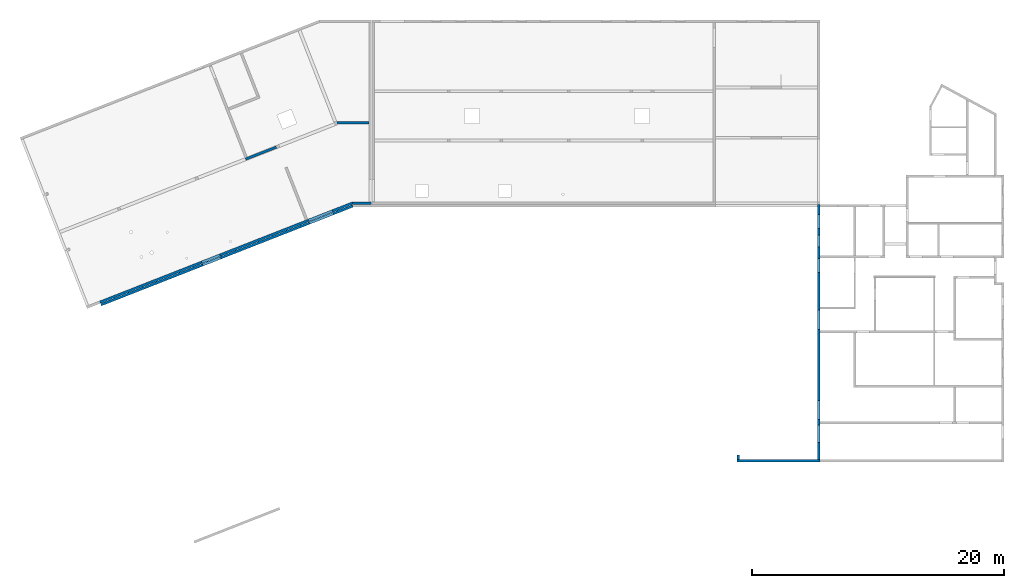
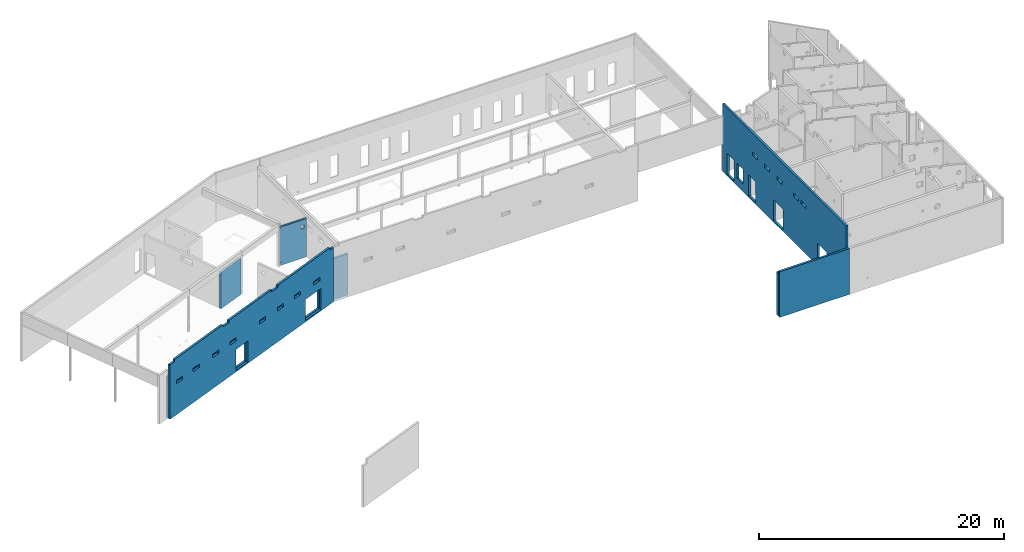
# One storey, part 3 of 13: 8 walls, 37 openings.
"""IFC2X3 building model written with IfcOpenShell, lengths in metres."""

from ifc_helpers import new_model, entity, si_unit, converted_unit, direction, frame, origin, origin_with_axes, place, context, subcontext, project, spatial, polyline, outline, extrude, clip, bounded_halfspace, material, layer, layer_set, layer_usage, element, save


model = new_model("IFC2X3")

# Units and contexts
model_context = context("Model", 3, precision=1e-05, world=origin(), true_north=direction((-0.407059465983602, -0.913401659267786)))
body_context = subcontext(model_context, "Body", "Model", "MODEL_VIEW")
ifc_project = project(units=[si_unit("LENGTHUNIT", "METRE"), si_unit("AREAUNIT", "SQUARE_METRE"), si_unit("VOLUMEUNIT", "CUBIC_METRE"), si_unit("MASSUNIT", "GRAM", prefix="KILO"), converted_unit("PLANEANGLEUNIT", "DEGREE", entity("IfcPlaneAngleMeasure", 0.0174532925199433), si_unit("PLANEANGLEUNIT", "RADIAN"), dimensions=[0, 0, 0, 0, 0, 0, 0])], contexts=[model_context])

# Site, buildings, storey
site_placement = place(None, origin())
site = spatial("IfcSite", under=ifc_project, at=site_placement, Name="Site", CompositionType="ELEMENT")
building_1_placement = place(site_placement, origin())
building_1 = spatial("IfcBuilding", under=site, at=building_1_placement, Name="Site", CompositionType="COMPLEX")
building_2_placement = place(building_1_placement, origin())
building_2 = spatial("IfcBuilding", under=building_1, at=building_2_placement, Name="Bâtiments", CompositionType="ELEMENT")
storey_placement = place(building_2_placement, frame((0.0, 0.0, -0.14)))
storey = spatial("IfcBuildingStorey", under=building_2, at=storey_placement, Name="RDC", CompositionType="ELEMENT", Elevation=-0.14)

# Wall
ifc_material_1 = material(Name="Béton")
ifc_layer_1 = layer(ifc_material_1, 0.200000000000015)
ifc_layer_set_1 = layer_set([ifc_layer_1])
ifc_layer_usage_1 = layer_usage(ifc_layer_set_1, "AXIS2", "POSITIVE", 0.0)
wall_1_placement = place(storey_placement, frame((20.2617836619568, -0.578992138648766, 0.0), z_axis=(0.0, 0.0, 1.0), x_axis=(-0.930910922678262, -0.365246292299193, 0.0)))
element("IfcWallStandardCase", 1, at=wall_1_placement, inside=storey, material=ifc_layer_usage_1, context=body_context, shape_type="SweptSolid", body=[
    extrude(outline(polyline([(-2.69440214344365, -0.173319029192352), (-0.0680023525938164, -0.173319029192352), (-0.0680023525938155, 0.0266809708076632), (-2.6945069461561, 0.0266809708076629), (-2.69440214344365, -0.173319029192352)])), frame((2.69440214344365, 0.173319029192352, 0.0), z_axis=(0.0, 0.0, 1.0), x_axis=(1.0, 0.0, 0.0)), (0.0, 0.0, 1.0), 3.64),
])

# Wall, openings
ifc_material_2 = material(Name="Béton")
ifc_layer_2 = layer(ifc_material_2, 0.200000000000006)
ifc_layer_set_2 = layer_set([ifc_layer_2])
ifc_layer_usage_2 = layer_usage(ifc_layer_set_2, "AXIS2", "POSITIVE", -0.100000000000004)
wall_2_placement = place(storey_placement, frame((25.1348412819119, 1.17469343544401, 0.02), z_axis=(0.0, 0.0, 1.0), x_axis=(1.0, 4.6824196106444e-10, 0.0)))
wall_2 = element("IfcWallStandardCase", 2, at=wall_2_placement, inside=storey, material=ifc_layer_usage_2, context=body_context, shape_type="Clipping", body=[
    clip(extrude(outline(polyline([(0.0364060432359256, -1.70468370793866e-11), (2.5641935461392, -1.70468370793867e-11), (2.5641935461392, 0.199999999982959), (9.36483922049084e-11, 0.199999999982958), (0.0364060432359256, -1.70468370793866e-11)])), frame((-0.0364060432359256, 1.70468370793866e-11, 0.0), z_axis=(0.0, 0.0, 1.0), x_axis=(1.0, 0.0, 0.0)), (0.0, 0.0, 1.0), 3.82), bounded_halfspace(frame((0.00156299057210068, 0.0552426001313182, 3.62), z_axis=(0.0, 0.0, -1.0), x_axis=(1.0, 2.57717025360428e-15, 0.0)), True, origin_with_axes(), polyline([(0.0, 0.0), (0.0348564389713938, 8.98309776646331e-17), (-0.0301674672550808, 0.165727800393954), (0.0, 0.0)]))),
])
opening_1_placement = place(wall_2_placement, frame((2.34868595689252, 0.200000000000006, 2.9), z_axis=(-4.68241978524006e-10, -1.0, 0.0), x_axis=(0.0, 0.0, 1.0)))
element("IfcOpeningElement", 3, at=opening_1_placement, cuts=wall_2, Name="CVC-030", ObjectType="Opening", context=body_context, shape_type="SweptSolid", body=[
    extrude(outline(polyline([(0.199999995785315, 0.4), (0.220905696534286, 0.398904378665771), (0.241582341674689, 0.395629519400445), (0.261803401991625, 0.390211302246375), (0.28134733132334, 0.382709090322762), (0.300000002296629, 0.373205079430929), (0.317557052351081, 0.361803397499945), (0.333826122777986, 0.348628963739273), (0.348628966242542, 0.33382611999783), (0.361803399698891, 0.317557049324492), (0.373205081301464, 0.299999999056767), (0.382709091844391, 0.2813473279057), (0.390211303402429, 0.261803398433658), (0.395629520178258, 0.241582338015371), (0.398904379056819, 0.220905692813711), (0.4, 0.200000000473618), (0.398904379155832, 0.179094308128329), (0.395629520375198, 0.158417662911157), (0.390211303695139, 0.138196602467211), (0.382709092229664, 0.118652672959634), (0.373205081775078, 0.100000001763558), (0.361803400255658, 0.0824429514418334), (0.348628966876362, 0.066173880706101), (0.333826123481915, 0.0513710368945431), (0.317557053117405, 0.0381966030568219), (0.300000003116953, 0.026794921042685), (0.281347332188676, 0.0172909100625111), (0.261803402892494, 0.00978869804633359), (0.241582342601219, 0.00437048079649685), (0.220905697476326, 0.00109562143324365), (0.199999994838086, 0.0), (0.179094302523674, 0.00109562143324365), (0.158417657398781, 0.00437048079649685), (0.138196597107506, 0.00978869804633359), (0.118652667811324, 0.0172909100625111), (0.0999999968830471, 0.026794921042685), (0.0824429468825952, 0.0381966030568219), (0.0661738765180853, 0.0513710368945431), (0.0513710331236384, 0.066173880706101), (0.0381965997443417, 0.0824429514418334), (0.0267949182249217, 0.100000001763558), (0.0172909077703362, 0.118652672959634), (0.00978869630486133, 0.138196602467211), (0.0043704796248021, 0.158417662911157), (0.00109562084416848, 0.179094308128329), (0.0, 0.200000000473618), (0.00109562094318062, 0.220905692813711), (0.00437047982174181, 0.241582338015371), (0.00978869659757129, 0.261803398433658), (0.0172909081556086, 0.2813473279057), (0.0267949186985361, 0.299999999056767), (0.0381966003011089, 0.317557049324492), (0.0513710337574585, 0.33382611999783), (0.0661738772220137, 0.348628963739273), (0.0824429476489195, 0.361803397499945), (0.0999999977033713, 0.373205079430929), (0.11865266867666, 0.382709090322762), (0.138196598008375, 0.390211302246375), (0.158417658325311, 0.395629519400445), (0.179094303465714, 0.398904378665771), (0.199999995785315, 0.4)])), origin_with_axes(), (0.0, 0.0, 1.0), 0.200000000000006),
])
opening_2_placement = place(wall_2_placement, frame((0.00845097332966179, 1.11122629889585e-16, 0.27), z_axis=(4.6824196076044e-10, 1.0, 0.0), x_axis=(0.0, 0.0, 1.0)))
element("IfcOpeningElement", 4, at=opening_2_placement, cuts=wall_2, Name="PB-RDC-10", ObjectType="Opening", context=body_context, shape_type="SweptSolid", body=[
    extrude(outline(polyline([(0.0, 0.15), (0.1, 0.15), (0.1, 0.0), (0.0, 0.0), (0.0, 0.15)])), origin_with_axes(), (0.0, 0.0, 1.0), 0.200000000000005),
])

ifc_material_3 = material(Name="Béton")
ifc_layer_3 = layer(ifc_material_3, 0.200000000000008)
ifc_layer_set_3 = layer_set([ifc_layer_3])
ifc_layer_usage_3 = layer_usage(ifc_layer_set_3, "AXIS2", "POSITIVE", -0.2)
wall_3_placement = place(storey_placement, frame((63.413389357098, -25.4449220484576, 0.0), z_axis=(0.0, 0.0, 1.0), x_axis=(-1.01400839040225e-06, 0.999999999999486, 0.0)))
wall_3 = element("IfcWallStandardCase", 5, at=wall_3_placement, inside=storey, material=ifc_layer_usage_3, context=body_context, shape_type="Clipping", body=[
    clip(clip(extrude(outline(polyline([(-2.02822454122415e-07, -0.200020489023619), (20.2059704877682, -0.200020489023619), (20.2059704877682, -2.04890236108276e-05), (8.6977965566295e-08, -2.04890236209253e-05), (-2.02822454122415e-07, -0.200020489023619)])), frame((2.02822454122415e-07, 0.200020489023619, 0.0), z_axis=(0.0, 0.0, 1.0), x_axis=(1.0, 0.0, 0.0)), (0.0, 0.0, 1.0), 6.77656698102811), bounded_halfspace(frame((17.6304523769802, 0.13331167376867, 6.01651584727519), z_axis=(-0.147291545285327, -2.00264281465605e-06, -0.989093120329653), x_axis=(-0.989093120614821, 7.9646515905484e-07, 0.147291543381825)), True, origin_with_axes(), polyline([(20.2059706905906, 0.199935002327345), (20.1588330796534, 0.199935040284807), (20.1588330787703, 0.200000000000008), (12.5265527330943, 0.199999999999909), (12.5265539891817, -9.23939674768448e-14), (20.2059706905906, -3.46944695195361e-21), (20.2059706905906, 0.199935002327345)]))), bounded_halfspace(frame((6.26327680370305, 0.0999999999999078, 5.58744666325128), z_axis=(0.186524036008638, 1.01329689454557e-07, -0.982450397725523), x_axis=(-1.44900209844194e-06, -0.999999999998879, -3.78241397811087e-07)), True, origin_with_axes(), polyline([(3.91168304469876e-07, 0.199999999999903), (1.01367884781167e-07, -9.55119280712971e-14), (12.5265539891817, -9.23939674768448e-14), (12.5265527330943, 0.199999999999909), (3.91168304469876e-07, 0.199999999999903)]))),
])
opening_3_placement = place(wall_3_placement, frame((1.35171618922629, -4.45691313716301e-15, 0.14), z_axis=(-4.54747350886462e-15, 1.0, 0.0), x_axis=(0.0, 0.0, 1.0)))
element("IfcOpeningElement", 6, at=opening_3_placement, cuts=wall_3, Name="Baie de porte", ObjectType="Opening", context=body_context, shape_type="SweptSolid", body=[
    extrude(outline(polyline([(0.0, 1.36), (2.1, 1.36), (2.1, 0.0), (0.0, 0.0), (0.0, 1.36)])), origin_with_axes(), (0.0, 0.0, 1.0), 0.200000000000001),
])
opening_4_placement = place(wall_3_placement, frame((3.17171618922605, -1.68785124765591e-15, 0.14), z_axis=(-2.27373675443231e-15, 1.0, 0.0), x_axis=(0.0, 0.0, 1.0)))
element("IfcOpeningElement", 7, at=opening_4_placement, cuts=wall_3, Name="Baie de porte", ObjectType="Opening", context=body_context, shape_type="SweptSolid", body=[
    extrude(outline(polyline([(0.0, 1.5), (2.1, 1.5), (2.1, 0.0), (0.0, 0.0), (0.0, 1.5)])), origin_with_axes(), (0.0, 0.0, 1.0), 0.200000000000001),
])
opening_5_placement = place(wall_3_placement, frame((17.81638797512, 0.200000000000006, 0.74), z_axis=(-1.81898940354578e-14, -1.0, 0.0), x_axis=(0.0, 0.0, 1.0)))
element("IfcOpeningElement", 8, at=opening_5_placement, cuts=wall_3, Name="Baie de fenêtre", ObjectType="Opening", context=body_context, shape_type="SweptSolid", body=[
    extrude(outline(polyline([(0.0, 0.969999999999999), (1.5, 0.969999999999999), (1.5, 0.0), (0.0, 0.0), (0.0, 0.969999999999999)])), origin_with_axes(), (0.0, 0.0, 1.0), 0.200000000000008),
])
opening_6_placement = place(wall_3_placement, frame((15.9263880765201, 0.200000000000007, 0.14), z_axis=(9.09494701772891e-15, -1.0, 0.0), x_axis=(0.0, 0.0, 1.0)))
element("IfcOpeningElement", 9, at=opening_6_placement, cuts=wall_3, Name="Baie de porte", ObjectType="Opening", context=body_context, shape_type="SweptSolid", body=[
    extrude(outline(polyline([(0.0, 1.11), (2.1, 1.11), (2.1, 0.0), (0.0, 0.0), (0.0, 1.11)])), origin_with_axes(), (0.0, 0.0, 1.0), 0.200000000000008),
])
opening_7_placement = place(wall_3_placement, frame((19.436388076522, 0.200000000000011, 0.14), z_axis=(0.0, -1.0, 0.0), x_axis=(0.0, 0.0, 1.0)))
element("IfcOpeningElement", 10, at=opening_7_placement, cuts=wall_3, Name="Baie de porte", ObjectType="Opening", context=body_context, shape_type="SweptSolid", body=[
    extrude(outline(polyline([(0.0, 1.11), (2.1, 1.11), (2.1, 0.0), (0.0, 0.0), (0.0, 1.11)])), origin_with_axes(), (0.0, 0.0, 1.0), 0.200000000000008),
])
opening_8_placement = place(wall_3_placement, frame((10.311522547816, 1.88366683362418e-15, 0.14), z_axis=(-9.09494701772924e-15, 1.0, 0.0), x_axis=(0.0, 0.0, 1.0)))
element("IfcOpeningElement", 11, at=opening_8_placement, cuts=wall_3, Name="Baie de porte", ObjectType="Opening", context=body_context, shape_type="SweptSolid", body=[
    extrude(outline(polyline([(0.0, 1.56), (2.1, 1.56), (2.1, 0.0), (0.0, 0.0), (0.0, 1.56)])), origin_with_axes(), (0.0, 0.0, 1.0), 0.200000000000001),
])
opening_9_placement = place(wall_3_placement, frame((6.54166970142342, -5.06475850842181e-15, 4.56), z_axis=(-4.54747350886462e-15, 1.0, 0.0), x_axis=(0.0, 0.0, 1.0)))
element("IfcOpeningElement", 12, at=opening_9_placement, cuts=wall_3, Name="CVC-124", ObjectType="Opening", context=body_context, shape_type="SweptSolid", body=[
    extrude(outline(polyline([(0.0, 0.8), (0.35, 0.8), (0.35, 0.0), (0.0, 0.0), (0.0, 0.8)])), origin_with_axes(), (0.0, 0.0, 1.0), 0.200000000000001),
])
opening_10_placement = place(wall_3_placement, frame((7.81415809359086, -4.61899095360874e-15, 4.56), z_axis=(-4.54747350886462e-15, 1.0, 0.0), x_axis=(0.0, 0.0, 1.0)))
element("IfcOpeningElement", 13, at=opening_10_placement, cuts=wall_3, Name="CVC-123", ObjectType="Opening", context=body_context, shape_type="SweptSolid", body=[
    extrude(outline(polyline([(0.0, 0.8), (0.35, 0.8), (0.35, 0.0), (0.0, 0.0), (0.0, 0.8)])), origin_with_axes(), (0.0, 0.0, 1.0), 0.200000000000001),
])
opening_11_placement = place(wall_3_placement, frame((12.4965681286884, -4.95225735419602e-15, 4.56), z_axis=(-9.09494701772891e-15, 1.0, 0.0), x_axis=(0.0, 0.0, 1.0)))
element("IfcOpeningElement", 14, at=opening_11_placement, cuts=wall_3, Name="CVC-121", ObjectType="Opening", context=body_context, shape_type="SweptSolid", body=[
    extrude(outline(polyline([(0.0, 0.8), (0.35, 0.8), (0.35, 0.0), (0.0, 0.0), (0.0, 0.8)])), origin_with_axes(), (0.0, 0.0, 1.0), 0.200000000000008),
])
opening_12_placement = place(wall_3_placement, frame((14.4941793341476, -6.81989187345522e-16, 4.56), z_axis=(0.0, 1.0, 0.0), x_axis=(0.0, 0.0, 1.0)))
element("IfcOpeningElement", 15, at=opening_12_placement, cuts=wall_3, Name="CVC-120", ObjectType="Opening", context=body_context, shape_type="SweptSolid", body=[
    extrude(outline(polyline([(0.0, 0.8), (0.35, 0.8), (0.35, 0.0), (0.0, 0.0), (0.0, 0.8)])), origin_with_axes(), (0.0, 0.0, 1.0), 0.200000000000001),
])
opening_13_placement = place(wall_3_placement, frame((10.4930045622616, 4.82162920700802e-16, 4.56), z_axis=(0.0, 1.0, 0.0), x_axis=(0.0, 0.0, 1.0)))
element("IfcOpeningElement", 16, at=opening_13_placement, cuts=wall_3, Name="CVC-122", ObjectType="Opening", context=body_context, shape_type="SweptSolid", body=[
    extrude(outline(polyline([(0.0, 0.8), (0.35, 0.8), (0.35, 0.0), (0.0, 0.0), (0.0, 0.8)])), origin_with_axes(), (0.0, 0.0, 1.0), 0.200000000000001),
])

# Walls
ifc_material_4 = material(Name="Béton")
ifc_layer_4 = layer(ifc_material_4, 0.199999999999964)
ifc_layer_set_4 = layer_set([ifc_layer_4])
ifc_layer_usage_4 = layer_usage(ifc_layer_set_4, "AXIS2", "POSITIVE", -0.199999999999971)
wall_4_placement = place(storey_placement, frame((63.413389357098, -25.4449220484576, 0.02), z_axis=(0.0, 0.0, 1.0), x_axis=(-0.999999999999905, 4.34993701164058e-07, 0.0)))
element("IfcWallStandardCase", 17, at=wall_4_placement, inside=storey, material=ifc_layer_usage_4, context=body_context, shape_type="SweptSolid", body=[
    extrude(outline(polyline([(-6.57740284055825, -0.200002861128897), (8.69999848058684e-08, -0.200002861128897), (-1.27525170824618e-05, -2.86112893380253e-06), (-6.57740313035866, -2.86112893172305e-06), (-6.57740284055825, -0.200002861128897)])), frame((6.57740284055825, 0.200002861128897, 0.0), z_axis=(0.0, 0.0, 1.0), x_axis=(1.0, 0.0, 0.0)), (0.0, 0.0, 1.0), 4.55832890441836),
])
ifc_material_5 = material(Name="Béton")
ifc_layer_5 = layer(ifc_material_5, 0.199999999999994)
ifc_layer_set_5 = layer_set([ifc_layer_5])
ifc_layer_usage_5 = layer_usage(ifc_layer_set_5, "AXIS2", "POSITIVE", -0.2)
wall_5_placement = place(storey_placement, frame((57.0359864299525, -25.4449192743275, 0.02), z_axis=(0.0, 0.0, 1.0), x_axis=(-6.37625915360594e-05, 0.999999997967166, 0.0)))
element("IfcWallStandardCase", 18, at=wall_5_placement, inside=storey, material=ifc_layer_usage_5, context=body_context, shape_type="SweptSolid", body=[
    extrude(outline(polyline([(-1.2753952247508e-05, -0.200022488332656), (0.352688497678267, -0.200022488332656), (0.352688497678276, -2.24883326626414e-05), (8.55648274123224e-08, -2.24883326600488e-05), (-1.2753952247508e-05, -0.200022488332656)])), frame((1.2753952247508e-05, 0.200022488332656, 0.0), z_axis=(0.0, 0.0, 1.0), x_axis=(1.0, 0.0, 0.0)), (0.0, 0.0, 1.0), 4.26),
])

# Wall, openings
ifc_material_6 = material(Name="Béton")
ifc_layer_6 = layer(ifc_material_6, 0.199999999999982)
ifc_layer_set_6 = layer_set([ifc_layer_6])
ifc_layer_usage_6 = layer_usage(ifc_layer_set_6, "AXIS2", "POSITIVE", 0.0)
wall_6_placement = place(storey_placement, frame((26.3480553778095, -5.23894658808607, 0.0), z_axis=(0.0, 0.0, 1.0), x_axis=(-0.93091092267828, -0.365246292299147, 0.0)))
wall_6 = element("IfcWallStandardCase", 19, at=wall_6_placement, inside=storey, material=ifc_layer_usage_6, context=body_context, shape_type="SweptSolid", body=[
    extrude(outline(polyline([(-21.5474034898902, -0.17331902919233), (-0.0680023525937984, -0.173319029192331), (-0.0680023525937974, 0.0266809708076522), (-21.5095719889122, 0.0266809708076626), (-21.5474034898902, -0.17331902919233)])), frame((21.5474034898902, 0.17331902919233, 0.0), z_axis=(0.0, 0.0, 1.0), x_axis=(1.0, 0.0, 0.0)), (0.0, 0.0, 1.0), 5.64),
])
opening_14_placement = place(wall_6_placement, frame((0.53795393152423, 0.199999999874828, 5.43), z_axis=(3.75123079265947e-09, -1.0, 0.0), x_axis=(0.0, 0.0, 1.0)))
element("IfcOpeningElement", 20, at=opening_14_placement, cuts=wall_6, Name="Percement dans mur", ObjectType="Opening", context=body_context, shape_type="SweptSolid", body=[
    extrude(outline(polyline([(0.21, 0.538109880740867), (0.21, 0.0), (0.0, 0.0), (0.0, 0.538109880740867), (0.21, 0.538109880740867)])), origin_with_axes(), (0.0, 0.0, 1.0), 0.199999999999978),
])
opening_15_placement = place(wall_6_placement, frame((11.2622368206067, 6.3664629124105e-15, 0.14), z_axis=(0.0, 1.0, 0.0), x_axis=(0.0, 0.0, 1.0)))
element("IfcOpeningElement", 21, at=opening_15_placement, cuts=wall_6, Name="Baie de porte", ObjectType="Opening", context=body_context, shape_type="SweptSolid", body=[
    extrude(outline(polyline([(0.0, 1.56), (2.1, 1.56), (2.1, 0.0), (0.0, 0.0), (0.0, 1.56)])), origin_with_axes(), (0.0, 0.0, 1.0), 0.199999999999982),
])
opening_16_placement = place(wall_6_placement, frame((1.66847568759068, 1.43245415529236e-14, 0.14), z_axis=(5.68434188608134e-15, 1.0, 0.0), x_axis=(0.0, 0.0, 1.0)))
element("IfcOpeningElement", 22, at=opening_16_placement, cuts=wall_6, Name="Baie de porte", ObjectType="Opening", context=body_context, shape_type="SweptSolid", body=[
    extrude(outline(polyline([(0.0, 2.07), (2.1, 2.07), (2.1, 0.0), (0.0, 0.0), (0.0, 2.07)])), origin_with_axes(), (0.0, 0.0, 1.0), 0.199999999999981),
])
opening_17_placement = place(wall_6_placement, frame((19.8294646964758, 2.72848410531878e-15, 3.09), z_axis=(1.81898940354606e-14, 1.0, 0.0), x_axis=(0.0, 0.0, 1.0)))
element("IfcOpeningElement", 23, at=opening_17_placement, cuts=wall_6, Name="CVC-082", ObjectType="Opening", context=body_context, shape_type="SweptSolid", body=[
    extrude(outline(polyline([(0.0, 0.8), (0.35, 0.8), (0.35, 0.0), (0.0, 0.0), (0.0, 0.8)])), origin_with_axes(), (0.0, 0.0, 1.0), 0.19999999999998),
])
opening_18_placement = place(wall_6_placement, frame((17.655632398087, 2.72848410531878e-15, 3.09), z_axis=(0.0, 1.0, 0.0), x_axis=(0.0, 0.0, 1.0)))
element("IfcOpeningElement", 24, at=opening_18_placement, cuts=wall_6, Name="CVC-082", ObjectType="Opening", context=body_context, shape_type="SweptSolid", body=[
    extrude(outline(polyline([(0.0, 0.800000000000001), (0.35, 0.800000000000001), (0.35, 0.0), (0.0, 0.0), (0.0, 0.800000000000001)])), origin_with_axes(), (0.0, 0.0, 1.0), 0.199999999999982),
])
opening_19_placement = place(wall_6_placement, frame((15.0985948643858, 5.45696821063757e-15, 3.09), z_axis=(0.0, 1.0, 0.0), x_axis=(0.0, 0.0, 1.0)))
element("IfcOpeningElement", 25, at=opening_19_placement, cuts=wall_6, Name="CVC-082", ObjectType="Opening", context=body_context, shape_type="SweptSolid", body=[
    extrude(outline(polyline([(0.0, 0.800000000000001), (0.35, 0.800000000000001), (0.35, 0.0), (0.0, 0.0), (0.0, 0.800000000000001)])), origin_with_axes(), (0.0, 0.0, 1.0), 0.199999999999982),
])
opening_20_placement = place(wall_6_placement, frame((12.8222368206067, 7.27595761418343e-15, 3.09), z_axis=(0.0, 1.0, 0.0), x_axis=(0.0, 0.0, 1.0)))
element("IfcOpeningElement", 26, at=opening_20_placement, cuts=wall_6, Name="CVC-082", ObjectType="Opening", context=body_context, shape_type="SweptSolid", body=[
    extrude(outline(polyline([(0.0, 0.8), (0.35, 0.8), (0.35, 0.0), (0.0, 0.0), (0.0, 0.8)])), origin_with_axes(), (0.0, 0.0, 1.0), 0.199999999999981),
])
opening_21_placement = place(wall_6_placement, frame((8.96131019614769, 1.00044417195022e-14, 3.09), z_axis=(9.09494701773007e-15, 1.0, 0.0), x_axis=(0.0, 0.0, 1.0)))
element("IfcOpeningElement", 27, at=opening_21_placement, cuts=wall_6, Name="CVC-082", ObjectType="Opening", context=body_context, shape_type="SweptSolid", body=[
    extrude(outline(polyline([(0.0, 0.800000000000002), (0.35, 0.800000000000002), (0.35, 0.0), (0.0, 0.0), (0.0, 0.800000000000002)])), origin_with_axes(), (0.0, 0.0, 1.0), 0.199999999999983),
])
opening_22_placement = place(wall_6_placement, frame((4.39474692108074, 1.25055521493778e-14, 3.09), z_axis=(4.54747350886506e-15, 1.0, 0.0), x_axis=(0.0, 0.0, 1.0)))
element("IfcOpeningElement", 28, at=opening_22_placement, cuts=wall_6, Name="CVC-082", ObjectType="Opening", context=body_context, shape_type="SweptSolid", body=[
    extrude(outline(polyline([(0.0, 0.800000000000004), (0.35, 0.800000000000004), (0.35, 0.0), (0.0, 0.0), (0.0, 0.800000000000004)])), origin_with_axes(), (0.0, 0.0, 1.0), 0.199999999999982),
])
opening_23_placement = place(wall_6_placement, frame((1.8615938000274, 1.4210854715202e-14, 3.09), z_axis=(7.95807864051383e-15, 1.0, 0.0), x_axis=(0.0, 0.0, 1.0)))
element("IfcOpeningElement", 29, at=opening_23_placement, cuts=wall_6, Name="CVC-082", ObjectType="Opening", context=body_context, shape_type="SweptSolid", body=[
    extrude(outline(polyline([(0.0, 0.8), (0.35, 0.8), (0.35, 0.0), (0.0, 0.0), (0.0, 0.8)])), origin_with_axes(), (0.0, 0.0, 1.0), 0.199999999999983),
])
opening_24_placement = place(wall_6_placement, frame((21.4794011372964, 0.19999999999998, 5.43), z_axis=(0.0, -1.0, 0.0), x_axis=(0.0, 0.0, 1.0)))
element("IfcOpeningElement", 30, at=opening_24_placement, cuts=wall_6, Name="Percement dans mur", ObjectType="Opening", context=body_context, shape_type="SweptSolid", body=[
    extrude(outline(polyline([(0.0, 0.600000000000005), (0.21, 0.600000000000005), (0.21, 0.0), (0.0, 0.0), (0.0, 0.600000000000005)])), origin_with_axes(), (0.0, 0.0, 1.0), 0.199999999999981),
])
opening_25_placement = place(wall_6_placement, frame((14.5629216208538, 0.199999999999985, 5.43), z_axis=(0.0, -1.0, 0.0), x_axis=(0.0, 0.0, 1.0)))
element("IfcOpeningElement", 31, at=opening_25_placement, cuts=wall_6, Name="Percement dans mur", ObjectType="Opening", context=body_context, shape_type="SweptSolid", body=[
    extrude(outline(polyline([(0.0, 0.799999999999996), (0.21, 0.799999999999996), (0.21, 0.0), (0.0, 0.0), (0.0, 0.799999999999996)])), origin_with_axes(), (0.0, 0.0, 1.0), 0.199999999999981),
])
opening_26_placement = place(wall_6_placement, frame((8.16373425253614, 0.199999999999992, 5.43), z_axis=(-9.09494701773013e-15, -1.0, 0.0), x_axis=(0.0, 0.0, 1.0)))
element("IfcOpeningElement", 32, at=opening_26_placement, cuts=wall_6, Name="Percement dans mur", ObjectType="Opening", context=body_context, shape_type="SweptSolid", body=[
    extrude(outline(polyline([(0.0, 0.799999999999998), (0.21, 0.799999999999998), (0.21, 0.0), (0.0, 0.0), (0.0, 0.799999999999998)])), origin_with_axes(), (0.0, 0.0, 1.0), 0.199999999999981),
])
opening_27_placement = place(wall_6_placement, frame((6.62457732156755, 1.00044417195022e-14, 3.09), z_axis=(-4.54747350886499e-15, 1.0, 0.0), x_axis=(0.0, 0.0, 1.0)))
element("IfcOpeningElement", 33, at=opening_27_placement, cuts=wall_6, Name="CVC-082", ObjectType="Opening", context=body_context, shape_type="SweptSolid", body=[
    extrude(outline(polyline([(0.0, 0.800000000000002), (0.35, 0.800000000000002), (0.35, 0.0), (0.0, 0.0), (0.0, 0.800000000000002)])), origin_with_axes(), (0.0, 0.0, 1.0), 0.199999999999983),
])

ifc_material_7 = material(Name="Béton")
ifc_layer_7 = layer(ifc_material_7, 0.199999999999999)
ifc_layer_set_7 = layer_set([ifc_layer_7])
ifc_layer_usage_7 = layer_usage(ifc_layer_set_7, "AXIS2", "POSITIVE", -0.2)
wall_7_placement = place(storey_placement, frame((26.3065843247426, -5.01888945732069, 0.0), z_axis=(0.0, 0.0, 1.0), x_axis=(-0.93091092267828, -0.365246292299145, 0.0)))
wall_7 = element("IfcWallStandardCase", 34, at=wall_7_placement, inside=storey, material=ifc_layer_usage_7, context=body_context, shape_type="SweptSolid", body=[
    extrude(outline(polyline([(-21.5891717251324, -0.173319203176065), (-0.0680024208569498, -0.173319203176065), (-0.0680019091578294, 0.0266807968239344), (-21.5513400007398, 0.0266807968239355), (-21.5891717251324, -0.173319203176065)])), frame((21.5891717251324, 0.173319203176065, 0.0), z_axis=(0.0, 0.0, 1.0), x_axis=(1.0, 0.0, 0.0)), (0.0, 0.0, 1.0), 4.12),
])
opening_28_placement = place(wall_7_placement, frame((3.78024046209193, 0.2, 0.14), z_axis=(0.0, -1.0, 0.0), x_axis=(0.0, 0.0, 1.0)))
element("IfcOpeningElement", 35, at=opening_28_placement, cuts=wall_7, Name="Baie de porte", ObjectType="Opening", context=body_context, shape_type="SweptSolid", body=[
    extrude(outline(polyline([(0.0, 2.07), (2.1, 2.07), (2.1, 0.0), (0.0, 0.0), (0.0, 2.07)])), origin_with_axes(), (0.0, 0.0, 1.0), 0.2),
])
opening_29_placement = place(wall_7_placement, frame((12.8644116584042, 0.200000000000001, 0.14), z_axis=(0.0, -1.0, 0.0), x_axis=(0.0, 0.0, 1.0)))
element("IfcOpeningElement", 36, at=opening_29_placement, cuts=wall_7, Name="Baie de porte", ObjectType="Opening", context=body_context, shape_type="SweptSolid", body=[
    extrude(outline(polyline([(0.0, 1.56), (2.1, 1.56), (2.1, 0.0), (0.0, 0.0), (0.0, 1.56)])), origin_with_axes(), (0.0, 0.0, 1.0), 0.2),
])
opening_30_placement = place(wall_7_placement, frame((1.90285313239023, -3.41060513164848e-16, 3.09), z_axis=(4.54747350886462e-15, 1.0, 0.0), x_axis=(0.0, 0.0, 1.0)))
element("IfcOpeningElement", 37, at=opening_30_placement, cuts=wall_7, Name="Niche dans mur", ObjectType="Opening", context=body_context, shape_type="SweptSolid", body=[
    extrude(outline(polyline([(0.0, 0.8), (0.35, 0.8), (0.35, 0.0), (0.0, 0.0), (0.0, 0.8)])), origin_with_axes(), (0.0, 0.0, 1.0), 0.200000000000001),
])
opening_31_placement = place(wall_7_placement, frame((5.23619752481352, 0.200000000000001, 3.09), z_axis=(0.0, -1.0, 0.0), x_axis=(0.0, 0.0, 1.0)))
element("IfcOpeningElement", 38, at=opening_31_placement, cuts=wall_7, Name="Niche dans mur", ObjectType="Opening", context=body_context, shape_type="SweptSolid", body=[
    extrude(outline(polyline([(0.0, 0.8), (0.35, 0.8), (0.35, 0.0), (0.0, 0.0), (0.0, 0.8)])), origin_with_axes(), (0.0, 0.0, 1.0), 0.2),
])
opening_32_placement = place(wall_7_placement, frame((9.80276106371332, 0.2, 3.09), z_axis=(0.0, -1.0, 0.0), x_axis=(0.0, 0.0, 1.0)))
element("IfcOpeningElement", 39, at=opening_32_placement, cuts=wall_7, Name="Niche dans mur", ObjectType="Opening", context=body_context, shape_type="SweptSolid", body=[
    extrude(outline(polyline([(0.0, 0.799999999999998), (0.35, 0.799999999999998), (0.35, 0.0), (0.0, 0.0), (0.0, 0.799999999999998)])), origin_with_axes(), (0.0, 0.0, 1.0), 0.199999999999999),
])
opening_33_placement = place(wall_7_placement, frame((12.8644116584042, 0.0, 3.09), z_axis=(0.0, 1.0, 0.0), x_axis=(0.0, 0.0, 1.0)))
element("IfcOpeningElement", 40, at=opening_33_placement, cuts=wall_7, Name="Niche dans mur", ObjectType="Opening", context=body_context, shape_type="SweptSolid", body=[
    extrude(outline(polyline([(0.0, 0.800000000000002), (0.35, 0.800000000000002), (0.35, 0.0), (0.0, 0.0), (0.0, 0.800000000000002)])), origin_with_axes(), (0.0, 0.0, 1.0), 0.199999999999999),
])
opening_34_placement = place(wall_7_placement, frame((15.1398907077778, 0.0, 3.09), z_axis=(0.0, 1.0, 0.0), x_axis=(0.0, 0.0, 1.0)))
element("IfcOpeningElement", 41, at=opening_34_placement, cuts=wall_7, Name="Niche dans mur", ObjectType="Opening", context=body_context, shape_type="SweptSolid", body=[
    extrude(outline(polyline([(0.0, 0.800000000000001), (0.35, 0.800000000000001), (0.35, 0.0), (0.0, 0.0), (0.0, 0.800000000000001)])), origin_with_axes(), (0.0, 0.0, 1.0), 0.199999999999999),
])
opening_35_placement = place(wall_7_placement, frame((18.4966956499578, 0.2, 3.09), z_axis=(0.0, -1.0, 0.0), x_axis=(0.0, 0.0, 1.0)))
element("IfcOpeningElement", 42, at=opening_35_placement, cuts=wall_7, Name="Niche dans mur", ObjectType="Opening", context=body_context, shape_type="SweptSolid", body=[
    extrude(outline(polyline([(0.0, 0.800000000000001), (0.35, 0.800000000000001), (0.35, 0.0), (0.0, 0.0), (0.0, 0.800000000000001)])), origin_with_axes(), (0.0, 0.0, 1.0), 0.199999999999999),
])
opening_36_placement = place(wall_7_placement, frame((20.6705254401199, 0.199999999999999, 3.09), z_axis=(1.81898940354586e-14, -1.0, 0.0), x_axis=(0.0, 0.0, 1.0)))
element("IfcOpeningElement", 43, at=opening_36_placement, cuts=wall_7, Name="Niche dans mur", ObjectType="Opening", context=body_context, shape_type="SweptSolid", body=[
    extrude(outline(polyline([(0.0, 0.8), (0.35, 0.8), (0.35, 0.0), (0.0, 0.0), (0.0, 0.8)])), origin_with_axes(), (0.0, 0.0, 1.0), 0.2),
])
opening_37_placement = place(wall_7_placement, frame((7.46602860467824, 0.200000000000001, 3.09), z_axis=(-4.54747350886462e-15, -1.0, 0.0), x_axis=(0.0, 0.0, 1.0)))
element("IfcOpeningElement", 44, at=opening_37_placement, cuts=wall_7, Name="Niche dans mur", ObjectType="Opening", context=body_context, shape_type="SweptSolid", body=[
    extrude(outline(polyline([(0.0, 0.800000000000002), (0.35, 0.800000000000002), (0.35, 0.0), (0.0, 0.0), (0.0, 0.800000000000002)])), origin_with_axes(), (0.0, 0.0, 1.0), 0.200000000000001),
])

# Wall
ifc_material_8 = material(Name="Béton")
ifc_layer_8 = layer(ifc_material_8, 0.200000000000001)
ifc_layer_set_8 = layer_set([ifc_layer_8])
ifc_layer_usage_8 = layer_usage(ifc_layer_set_8, "AXIS2", "POSITIVE", -0.2)
wall_8_placement = place(storey_placement, frame((27.8626147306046, -5.01889281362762, 0.02), z_axis=(0.0, 0.0, 1.0), x_axis=(-0.999999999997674, 2.15696744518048e-06, 0.0)))
element("IfcWallStandardCase", 45, at=wall_8_placement, inside=storey, material=ifc_layer_usage_8, context=body_context, shape_type="SweptSolid", body=[
    extrude(outline(polyline([(-1.55602997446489, -0.200003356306), (4.31400728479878e-07, -0.200003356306), (-0.0378312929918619, -3.35630599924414e-06), (-1.55602997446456, -3.35630599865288e-06), (-1.55602997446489, -0.200003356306)])), frame((1.55602997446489, 0.200003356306, 0.0), z_axis=(0.0, 0.0, 1.0), x_axis=(1.0, 0.0, 0.0)), (0.0, 0.0, 1.0), 4.1),
])

save(model, "model.ifc")
